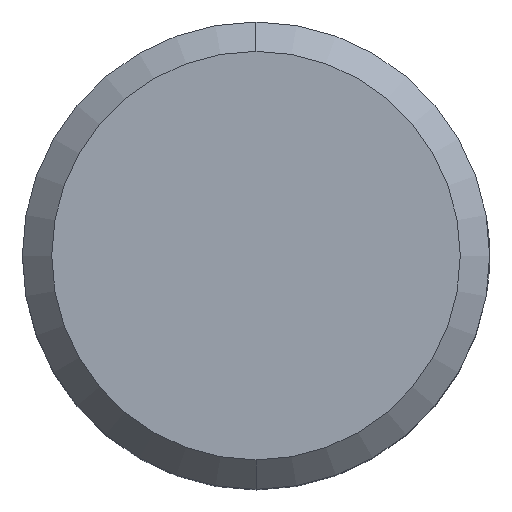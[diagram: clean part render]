
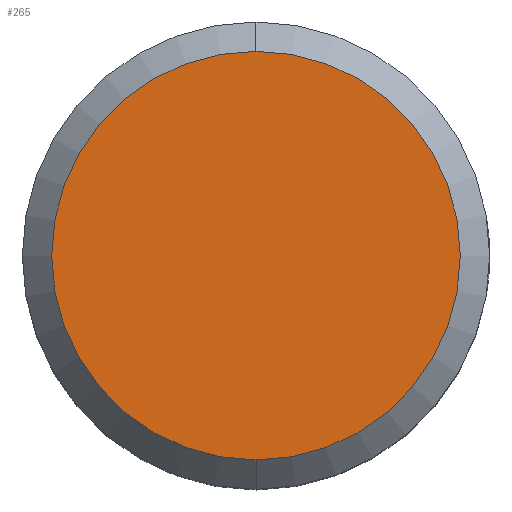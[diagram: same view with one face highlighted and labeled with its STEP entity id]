
A CAD part, top view. The second image highlights one B-rep face of the part: STEP entity #265.
In plain terms, the highlighted planar face has unit normal (0, 0, 1).
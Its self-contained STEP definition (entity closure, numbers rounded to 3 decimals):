
#34 = DIRECTION ( 'NONE',  ( 0., 0., -1. ) ) ;
#46 = FACE_OUTER_BOUND ( 'NONE', #445, .T. ) ;
#61 = CARTESIAN_POINT ( 'NONE',  ( 0., 15.3, 45. ) ) ;
#76 = AXIS2_PLACEMENT_3D ( 'NONE', #101, #296, #602 ) ;
#93 = CARTESIAN_POINT ( 'NONE',  ( 0., 0., 45. ) ) ;
#97 = PLANE ( 'NONE',  #118 ) ;
#101 = CARTESIAN_POINT ( 'NONE',  ( 0., 0., 45. ) ) ;
#118 = AXIS2_PLACEMENT_3D ( 'NONE', #93, #34, #328 ) ;
#158 = AXIS2_PLACEMENT_3D ( 'NONE', #202, #396, #554 ) ;
#202 = CARTESIAN_POINT ( 'NONE',  ( 0., 0., 45. ) ) ;
#240 = VERTEX_POINT ( 'NONE', #61 ) ;
#251 = CIRCLE ( 'NONE', #76, 15.3 ) ;
#265 = ADVANCED_FACE ( 'NONE', ( #46 ), #97, .F. ) ;
#296 = DIRECTION ( 'NONE',  ( 0., 0., -1. ) ) ;
#328 = DIRECTION ( 'NONE',  ( 0., -1., 0. ) ) ;
#396 = DIRECTION ( 'NONE',  ( 0., 0., -1. ) ) ;
#417 = CIRCLE ( 'NONE', #158, 15.3 ) ;
#445 = EDGE_LOOP ( 'NONE', ( #587, #640 ) ) ;
#448 = EDGE_CURVE ( 'NONE', #240, #471, #251, .T. ) ;
#471 = VERTEX_POINT ( 'NONE', #494 ) ;
#485 = EDGE_CURVE ( 'NONE', #471, #240, #417, .T. ) ;
#494 = CARTESIAN_POINT ( 'NONE',  ( 0., -15.3, 45. ) ) ;
#554 = DIRECTION ( 'NONE',  ( 0., -1., 0. ) ) ;
#587 = ORIENTED_EDGE ( 'NONE', *, *, #485, .F. ) ;
#602 = DIRECTION ( 'NONE',  ( 0., -1., 0. ) ) ;
#640 = ORIENTED_EDGE ( 'NONE', *, *, #448, .F. ) ;
